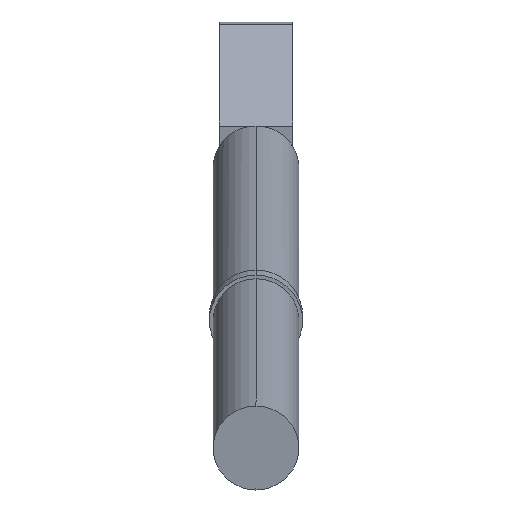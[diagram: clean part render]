
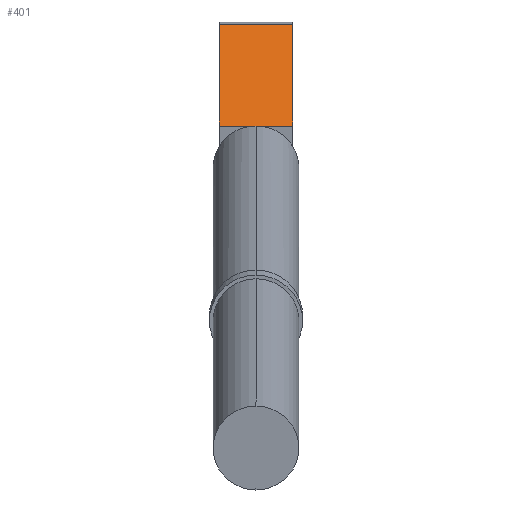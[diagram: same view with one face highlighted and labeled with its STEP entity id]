
A CAD part, left-side view. The second image highlights one B-rep face of the part: STEP entity #401.
In plain terms, the highlighted planar face has unit normal (-0.551, 0, 0.835).
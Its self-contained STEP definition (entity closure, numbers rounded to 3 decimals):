
#6 = DIRECTION ( 'NONE',  ( 0.551, 0., -0.835 ) ) ;
#8 = LINE ( 'NONE', #317, #627 ) ;
#14 = CARTESIAN_POINT ( 'NONE',  ( 312.361, 62., 752.42 ) ) ;
#27 = DIRECTION ( 'NONE',  ( 0., -1., 0. ) ) ;
#31 = LINE ( 'NONE', #516, #490 ) ;
#53 = PLANE ( 'NONE',  #355 ) ;
#72 = DIRECTION ( 'NONE',  ( 0., -1., 0. ) ) ;
#74 = VERTEX_POINT ( 'NONE', #676 ) ;
#98 = LINE ( 'NONE', #673, #383 ) ;
#113 = VERTEX_POINT ( 'NONE', #172 ) ;
#119 = VERTEX_POINT ( 'NONE', #542 ) ;
#122 = LINE ( 'NONE', #537, #460 ) ;
#131 = LINE ( 'NONE', #193, #286 ) ;
#152 = VERTEX_POINT ( 'NONE', #14 ) ;
#172 = CARTESIAN_POINT ( 'NONE',  ( 249.592, 62., 710.992 ) ) ;
#193 = CARTESIAN_POINT ( 'NONE',  ( 312.361, 62., 752.42 ) ) ;
#224 = CARTESIAN_POINT ( 'NONE',  ( 312.361, 32., 752.42 ) ) ;
#240 = EDGE_CURVE ( 'NONE', #74, #715, #31, .T. ) ;
#260 = ORIENTED_EDGE ( 'NONE', *, *, #465, .F. ) ;
#286 = VECTOR ( 'NONE', #72, 1000. ) ;
#292 = DIRECTION ( 'NONE',  ( -0.835, 0., -0.551 ) ) ;
#317 = CARTESIAN_POINT ( 'NONE',  ( 249.592, 62., 710.992 ) ) ;
#355 = AXIS2_PLACEMENT_3D ( 'NONE', #410, #6, #292 ) ;
#370 = ORIENTED_EDGE ( 'NONE', *, *, #378, .F. ) ;
#378 = EDGE_CURVE ( 'NONE', #113, #152, #98, .T. ) ;
#383 = VECTOR ( 'NONE', #617, 1000. ) ;
#401 = ADVANCED_FACE ( 'NONE', ( #751 ), #53, .F. ) ;
#403 = EDGE_CURVE ( 'NONE', #113, #119, #122, .T. ) ;
#410 = CARTESIAN_POINT ( 'NONE',  ( 312.361, 62., 752.42 ) ) ;
#411 = ORIENTED_EDGE ( 'NONE', *, *, #240, .T. ) ;
#460 = VECTOR ( 'NONE', #598, 1000. ) ;
#465 = EDGE_CURVE ( 'NONE', #152, #715, #131, .T. ) ;
#490 = VECTOR ( 'NONE', #623, 1000. ) ;
#511 = ORIENTED_EDGE ( 'NONE', *, *, #683, .T. ) ;
#516 = CARTESIAN_POINT ( 'NONE',  ( 249.592, 32., 710.992 ) ) ;
#537 = CARTESIAN_POINT ( 'NONE',  ( 249.592, 62., 710.992 ) ) ;
#542 = CARTESIAN_POINT ( 'NONE',  ( 249.592, 47., 710.992 ) ) ;
#598 = DIRECTION ( 'NONE',  ( 0., -1., 0. ) ) ;
#617 = DIRECTION ( 'NONE',  ( 0.835, 0., 0.551 ) ) ;
#623 = DIRECTION ( 'NONE',  ( 0.835, 0., 0.551 ) ) ;
#627 = VECTOR ( 'NONE', #27, 1000. ) ;
#673 = CARTESIAN_POINT ( 'NONE',  ( 249.592, 62., 710.992 ) ) ;
#676 = CARTESIAN_POINT ( 'NONE',  ( 249.592, 32., 710.992 ) ) ;
#683 = EDGE_CURVE ( 'NONE', #119, #74, #8, .T. ) ;
#692 = ORIENTED_EDGE ( 'NONE', *, *, #403, .T. ) ;
#715 = VERTEX_POINT ( 'NONE', #224 ) ;
#741 = EDGE_LOOP ( 'NONE', ( #260, #370, #692, #511, #411 ) ) ;
#751 = FACE_OUTER_BOUND ( 'NONE', #741, .T. ) ;
